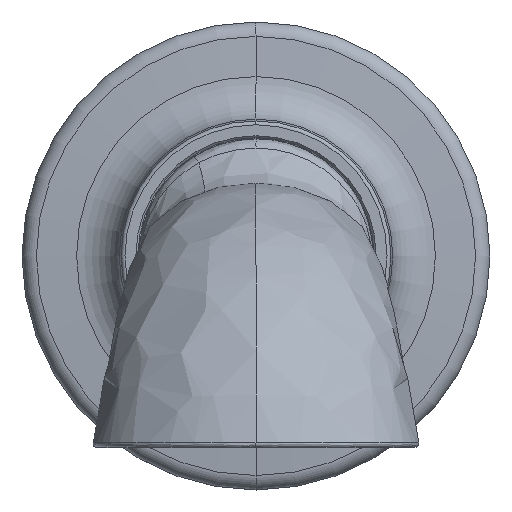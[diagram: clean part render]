
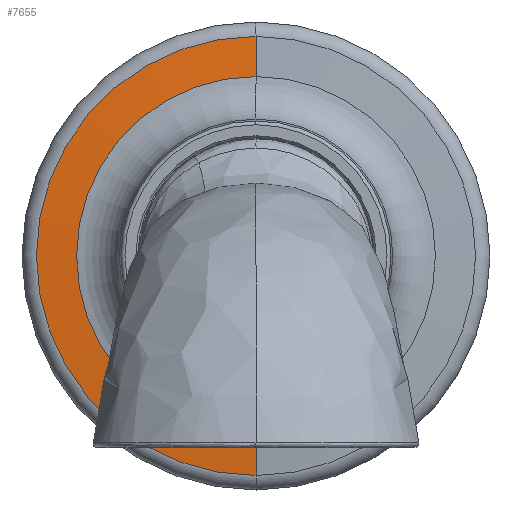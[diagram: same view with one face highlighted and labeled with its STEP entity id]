
A CAD part, top view. The second image highlights one B-rep face of the part: STEP entity #7655.
In plain terms, the highlighted conical face has half-angle 85.7 degrees and reference radius 25.575 mm.
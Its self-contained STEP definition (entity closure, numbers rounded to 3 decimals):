
#7609 = VERTEX_POINT('',#7610);
#7610 = CARTESIAN_POINT('',(0.,4.195,
    23.));
#7618 = VERTEX_POINT('',#7619);
#7619 = CARTESIAN_POINT('',(0.,4.195,-23.));
#7642 = EDGE_CURVE('',#7618,#7609,#7643,.T.);
#7643 = CIRCLE('',#7644,23.);
#7644 = AXIS2_PLACEMENT_3D('',#7645,#7646,#7647);
#7645 = CARTESIAN_POINT('',(0.,4.195,0.));
#7646 = DIRECTION('',(0.,-1.,0.));
#7647 = DIRECTION('',(0.,0.,-1.));
#7655 = ADVANCED_FACE('',(#7656),#7682,.T.);
#7656 = FACE_BOUND('',#7657,.T.);
#7657 = EDGE_LOOP('',(#7658,#7666,#7675,#7681));
#7658 = ORIENTED_EDGE('',*,*,#7659,.F.);
#7659 = EDGE_CURVE('',#7660,#7609,#7662,.T.);
#7660 = VERTEX_POINT('',#7661);
#7661 = CARTESIAN_POINT('',(0.,3.807,
    28.15));
#7662 = LINE('',#7663,#7664);
#7663 = CARTESIAN_POINT('',(0.,3.807,
    28.15));
#7664 = VECTOR('',#7665,1.);
#7665 = DIRECTION('',(0.,0.075,
    -0.997));
#7666 = ORIENTED_EDGE('',*,*,#7667,.F.);
#7667 = EDGE_CURVE('',#7668,#7660,#7670,.T.);
#7668 = VERTEX_POINT('',#7669);
#7669 = CARTESIAN_POINT('',(0.,3.807,-28.15));
#7670 = CIRCLE('',#7671,28.15);
#7671 = AXIS2_PLACEMENT_3D('',#7672,#7673,#7674);
#7672 = CARTESIAN_POINT('',(0.,3.807,0.));
#7673 = DIRECTION('',(0.,-1.,0.));
#7674 = DIRECTION('',(0.,0.,-1.));
#7675 = ORIENTED_EDGE('',*,*,#7676,.F.);
#7676 = EDGE_CURVE('',#7618,#7668,#7677,.T.);
#7677 = LINE('',#7678,#7679);
#7678 = CARTESIAN_POINT('',(0.,4.195,-23.));
#7679 = VECTOR('',#7680,1.);
#7680 = DIRECTION('',(0.,-0.075,-0.997));
#7681 = ORIENTED_EDGE('',*,*,#7642,.T.);
#7682 = CONICAL_SURFACE('',#7683,25.575,1.496);
#7683 = AXIS2_PLACEMENT_3D('',#7684,#7685,#7686);
#7684 = CARTESIAN_POINT('',(0.,4.001,0.));
#7685 = DIRECTION('',(0.,-1.,0.));
#7686 = DIRECTION('',(0.,0.,-1.));
